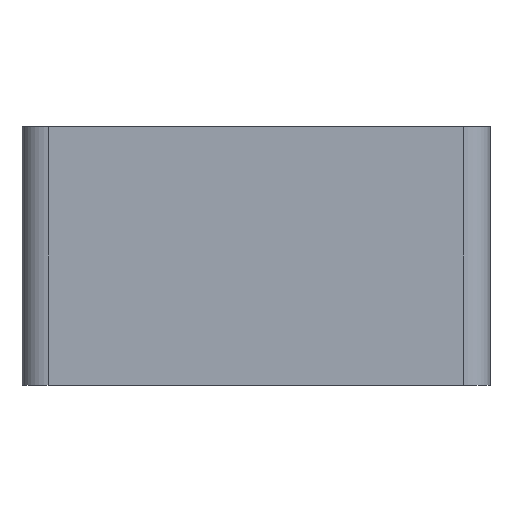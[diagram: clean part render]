
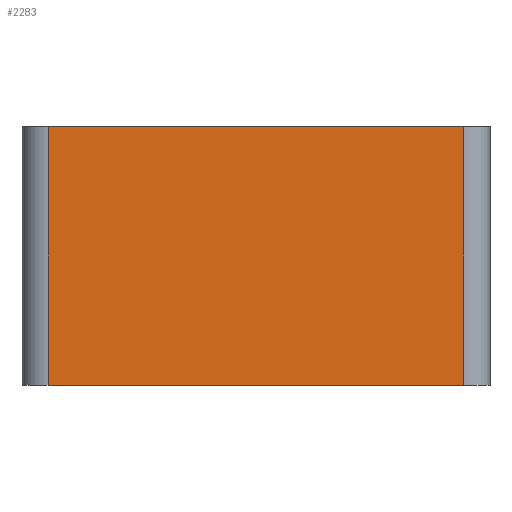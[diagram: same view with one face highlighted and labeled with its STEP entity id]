
A CAD part, front view. The second image highlights one B-rep face of the part: STEP entity #2283.
In plain terms, the highlighted planar face has unit normal (0, -1, 0).
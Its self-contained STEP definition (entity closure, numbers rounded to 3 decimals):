
#308 = CYLINDRICAL_SURFACE('',#309,12.);
#309 = AXIS2_PLACEMENT_3D('',#310,#311,#312);
#310 = CARTESIAN_POINT('',(95.5,17.,-6.));
#311 = DIRECTION('',(0.,0.,1.));
#312 = DIRECTION('',(1.,0.,-0.));
#336 = PLANE('',#337);
#337 = AXIS2_PLACEMENT_3D('',#338,#339,#340);
#338 = CARTESIAN_POINT('',(-108.5,4.,284.174));
#339 = DIRECTION('',(0.,0.,1.));
#340 = DIRECTION('',(1.,0.,-0.));
#389 = PLANE('',#390);
#390 = AXIS2_PLACEMENT_3D('',#391,#392,#393);
#391 = CARTESIAN_POINT('',(-108.5,4.,165.195));
#392 = DIRECTION('',(0.,0.,1.));
#393 = DIRECTION('',(1.,0.,-0.));
#833 = VERTEX_POINT('',#834);
#834 = CARTESIAN_POINT('',(95.5,5.,284.174));
#858 = VERTEX_POINT('',#859);
#859 = CARTESIAN_POINT('',(95.5,5.,165.195));
#885 = EDGE_CURVE('',#858,#833,#886,.T.);
#886 = SURFACE_CURVE('',#887,(#891,#898),.PCURVE_S1.);
#887 = LINE('',#888,#889);
#888 = CARTESIAN_POINT('',(95.5,5.,-6.));
#889 = VECTOR('',#890,1.);
#890 = DIRECTION('',(0.,0.,1.));
#891 = PCURVE('',#308,#892);
#892 = DEFINITIONAL_REPRESENTATION('',(#893),#897);
#893 = LINE('',#894,#895);
#894 = CARTESIAN_POINT('',(-1.571,0.));
#895 = VECTOR('',#896,1.);
#896 = DIRECTION('',(-0.,1.));
#897 = ( GEOMETRIC_REPRESENTATION_CONTEXT(2) 
PARAMETRIC_REPRESENTATION_CONTEXT() REPRESENTATION_CONTEXT('2D SPACE',''
  ) );
#898 = PCURVE('',#899,#904);
#899 = PLANE('',#900);
#900 = AXIS2_PLACEMENT_3D('',#901,#902,#903);
#901 = CARTESIAN_POINT('',(-107.5,5.,-6.));
#902 = DIRECTION('',(0.,-1.,0.));
#903 = DIRECTION('',(0.,0.,1.));
#904 = DEFINITIONAL_REPRESENTATION('',(#905),#909);
#905 = LINE('',#906,#907);
#906 = CARTESIAN_POINT('',(0.,-203.));
#907 = VECTOR('',#908,1.);
#908 = DIRECTION('',(1.,0.));
#909 = ( GEOMETRIC_REPRESENTATION_CONTEXT(2) 
PARAMETRIC_REPRESENTATION_CONTEXT() REPRESENTATION_CONTEXT('2D SPACE',''
  ) );
#915 = VERTEX_POINT('',#916);
#916 = CARTESIAN_POINT('',(-95.5,5.,284.174));
#937 = CYLINDRICAL_SURFACE('',#938,12.);
#938 = AXIS2_PLACEMENT_3D('',#939,#940,#941);
#939 = CARTESIAN_POINT('',(-95.5,17.,-6.));
#940 = DIRECTION('',(0.,0.,1.));
#941 = DIRECTION('',(-1.,-0.,0.));
#949 = EDGE_CURVE('',#833,#915,#950,.T.);
#950 = SURFACE_CURVE('',#951,(#955,#962),.PCURVE_S1.);
#951 = LINE('',#952,#953);
#952 = CARTESIAN_POINT('',(-108.,5.,284.174));
#953 = VECTOR('',#954,1.);
#954 = DIRECTION('',(-1.,0.,0.));
#955 = PCURVE('',#336,#956);
#956 = DEFINITIONAL_REPRESENTATION('',(#957),#961);
#957 = LINE('',#958,#959);
#958 = CARTESIAN_POINT('',(0.5,1.));
#959 = VECTOR('',#960,1.);
#960 = DIRECTION('',(-1.,0.));
#961 = ( GEOMETRIC_REPRESENTATION_CONTEXT(2) 
PARAMETRIC_REPRESENTATION_CONTEXT() REPRESENTATION_CONTEXT('2D SPACE',''
  ) );
#962 = PCURVE('',#899,#963);
#963 = DEFINITIONAL_REPRESENTATION('',(#964),#967);
#964 = B_SPLINE_CURVE_WITH_KNOTS('',1,(#965,#966),.UNSPECIFIED.,.F.,.F.,
  (2,2),(-203.5,-12.5),.PIECEWISE_BEZIER_KNOTS.);
#965 = CARTESIAN_POINT('',(290.174,-203.));
#966 = CARTESIAN_POINT('',(290.174,-12.));
#967 = ( GEOMETRIC_REPRESENTATION_CONTEXT(2) 
PARAMETRIC_REPRESENTATION_CONTEXT() REPRESENTATION_CONTEXT('2D SPACE',''
  ) );
#1586 = VERTEX_POINT('',#1587);
#1587 = CARTESIAN_POINT('',(-95.5,5.,165.195));
#1609 = EDGE_CURVE('',#858,#1586,#1610,.T.);
#1610 = SURFACE_CURVE('',#1611,(#1615,#1622),.PCURVE_S1.);
#1611 = LINE('',#1612,#1613);
#1612 = CARTESIAN_POINT('',(-108.,5.,165.195));
#1613 = VECTOR('',#1614,1.);
#1614 = DIRECTION('',(-1.,0.,0.));
#1615 = PCURVE('',#389,#1616);
#1616 = DEFINITIONAL_REPRESENTATION('',(#1617),#1621);
#1617 = LINE('',#1618,#1619);
#1618 = CARTESIAN_POINT('',(0.5,1.));
#1619 = VECTOR('',#1620,1.);
#1620 = DIRECTION('',(-1.,0.));
#1621 = ( GEOMETRIC_REPRESENTATION_CONTEXT(2) 
PARAMETRIC_REPRESENTATION_CONTEXT() REPRESENTATION_CONTEXT('2D SPACE',''
  ) );
#1622 = PCURVE('',#899,#1623);
#1623 = DEFINITIONAL_REPRESENTATION('',(#1624),#1627);
#1624 = B_SPLINE_CURVE_WITH_KNOTS('',1,(#1625,#1626),.UNSPECIFIED.,.F.,
  .F.,(2,2),(-203.5,-12.5),.PIECEWISE_BEZIER_KNOTS.);
#1625 = CARTESIAN_POINT('',(171.195,-203.));
#1626 = CARTESIAN_POINT('',(171.195,-12.));
#1627 = ( GEOMETRIC_REPRESENTATION_CONTEXT(2) 
PARAMETRIC_REPRESENTATION_CONTEXT() REPRESENTATION_CONTEXT('2D SPACE',''
  ) );
#2283 = ADVANCED_FACE('',(#2284),#899,.T.);
#2284 = FACE_BOUND('',#2285,.T.);
#2285 = EDGE_LOOP('',(#2286,#2307,#2308,#2309));
#2286 = ORIENTED_EDGE('',*,*,#2287,.F.);
#2287 = EDGE_CURVE('',#1586,#915,#2288,.T.);
#2288 = SURFACE_CURVE('',#2289,(#2293,#2300),.PCURVE_S1.);
#2289 = LINE('',#2290,#2291);
#2290 = CARTESIAN_POINT('',(-95.5,5.,-6.));
#2291 = VECTOR('',#2292,1.);
#2292 = DIRECTION('',(0.,0.,1.));
#2293 = PCURVE('',#899,#2294);
#2294 = DEFINITIONAL_REPRESENTATION('',(#2295),#2299);
#2295 = LINE('',#2296,#2297);
#2296 = CARTESIAN_POINT('',(0.,-12.));
#2297 = VECTOR('',#2298,1.);
#2298 = DIRECTION('',(1.,0.));
#2299 = ( GEOMETRIC_REPRESENTATION_CONTEXT(2) 
PARAMETRIC_REPRESENTATION_CONTEXT() REPRESENTATION_CONTEXT('2D SPACE',''
  ) );
#2300 = PCURVE('',#937,#2301);
#2301 = DEFINITIONAL_REPRESENTATION('',(#2302),#2306);
#2302 = LINE('',#2303,#2304);
#2303 = CARTESIAN_POINT('',(1.571,0.));
#2304 = VECTOR('',#2305,1.);
#2305 = DIRECTION('',(0.,1.));
#2306 = ( GEOMETRIC_REPRESENTATION_CONTEXT(2) 
PARAMETRIC_REPRESENTATION_CONTEXT() REPRESENTATION_CONTEXT('2D SPACE',''
  ) );
#2307 = ORIENTED_EDGE('',*,*,#1609,.F.);
#2308 = ORIENTED_EDGE('',*,*,#885,.T.);
#2309 = ORIENTED_EDGE('',*,*,#949,.T.);
